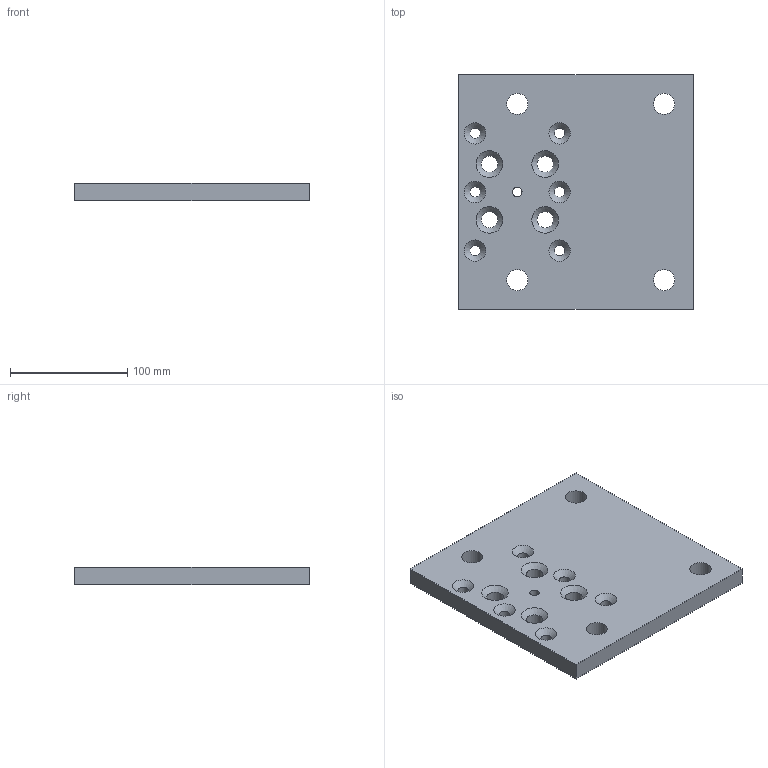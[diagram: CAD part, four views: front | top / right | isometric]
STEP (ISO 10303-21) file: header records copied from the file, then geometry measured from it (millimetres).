
FILE_DESCRIPTION(/* description */ (''),/* implementation_level */ '2;1');
FILE_NAME(/* name */ 'Pos156-Brede Strip 15x200-Aluminium-3st',/* time_stamp */ '2024-08-06T11:49:44+02:00',/* author */ (''),/* organization */ (''),/* preprocessor_version */ 'ST-DEVELOPER v16.5',/* originating_system */ 'HiCAD 2024 2901.2 Build 361',/* authorisation */ '');
FILE_SCHEMA (('AUTOMOTIVE_DESIGN { 1 0 10303 214 1 1 1 1 }'));
Length unit declared in the file: millimetre
Products named in the file (1): Pos156-Brede Strip 15x200-Aluminium-3st
Bounding box: 200 x 200 x 15 mm (x, y, z)
Volume: 564555.6 mm3; surface area: 96179.1 mm2
Topology: 1 solids, 1 shells, 31 faces, 88 edges, 69 vertices
Faces by surface type: cylinder 15, cone 10, plane 6
Full cylindrical faces by diameter (mm): 8 x1, 9 x6, 14 x4, 18 x4
Entity records: 1415 total; most frequent: DIRECTION 154, CARTESIAN_POINT 141, PRESENTATION_STYLE_ASSIGNMENT 105, COLOUR_RGB 105, DRAUGHTING_PRE_DEFINED_CURVE_FONT 104, CURVE_STYLE 104, OVER_RIDING_STYLED_ITEM 104, ORIENTED_EDGE 104
